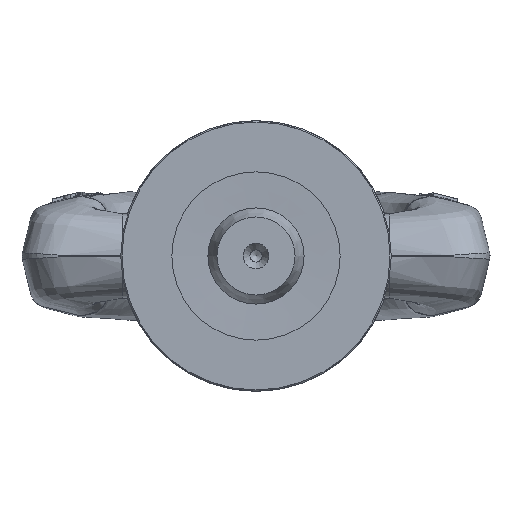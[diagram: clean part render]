
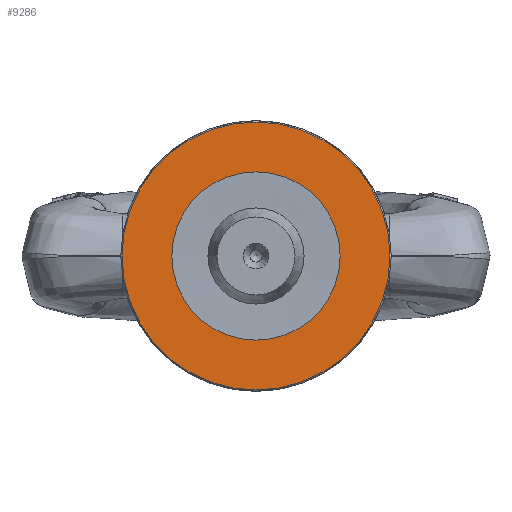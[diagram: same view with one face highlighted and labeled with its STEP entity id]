
A CAD part, front view. The second image highlights one B-rep face of the part: STEP entity #9286.
In plain terms, the highlighted planar face has unit normal (0, -1, 0) as drawn and (0, 0, -1) by its records, which use the part's own axes.
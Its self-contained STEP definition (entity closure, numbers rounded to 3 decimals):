
#2172=PLANE('',#9902);
#2338=FACE_BOUND('',#3359,.T.);
#2759=FACE_OUTER_BOUND('',#3358,.T.);
#3358=EDGE_LOOP('',(#8062));
#3359=EDGE_LOOP('',(#8063));
#3682=CIRCLE('',#9899,22.3);
#3684=CIRCLE('',#9903,14.);
#4420=VERTEX_POINT('',#25307);
#4422=VERTEX_POINT('',#25313);
#5682=EDGE_CURVE('',#4420,#4420,#3682,.T.);
#5684=EDGE_CURVE('',#4422,#4422,#3684,.T.);
#8062=ORIENTED_EDGE('',*,*,#5682,.F.);
#8063=ORIENTED_EDGE('',*,*,#5684,.F.);
#9286=ADVANCED_FACE('',(#2759,#2338),#2172,.F.);
#9899=AXIS2_PLACEMENT_3D('',#25308,#11194,#11195);
#9902=AXIS2_PLACEMENT_3D('',#25312,#11200,#11201);
#9903=AXIS2_PLACEMENT_3D('',#25314,#11202,#11203);
#11194=DIRECTION('center_axis',(0.,0.,1.));
#11195=DIRECTION('ref_axis',(-1.,0.,0.));
#11200=DIRECTION('center_axis',(0.,0.,1.));
#11201=DIRECTION('ref_axis',(1.,0.,0.));
#11202=DIRECTION('center_axis',(0.,0.,-1.));
#11203=DIRECTION('ref_axis',(-1.,0.,0.));
#25307=CARTESIAN_POINT('',(22.3,0.,0.));
#25308=CARTESIAN_POINT('Origin',(0.,0.,0.));
#25312=CARTESIAN_POINT('Origin',(0.,0.,0.));
#25313=CARTESIAN_POINT('',(14.,0.,0.));
#25314=CARTESIAN_POINT('Origin',(0.,0.,0.));
